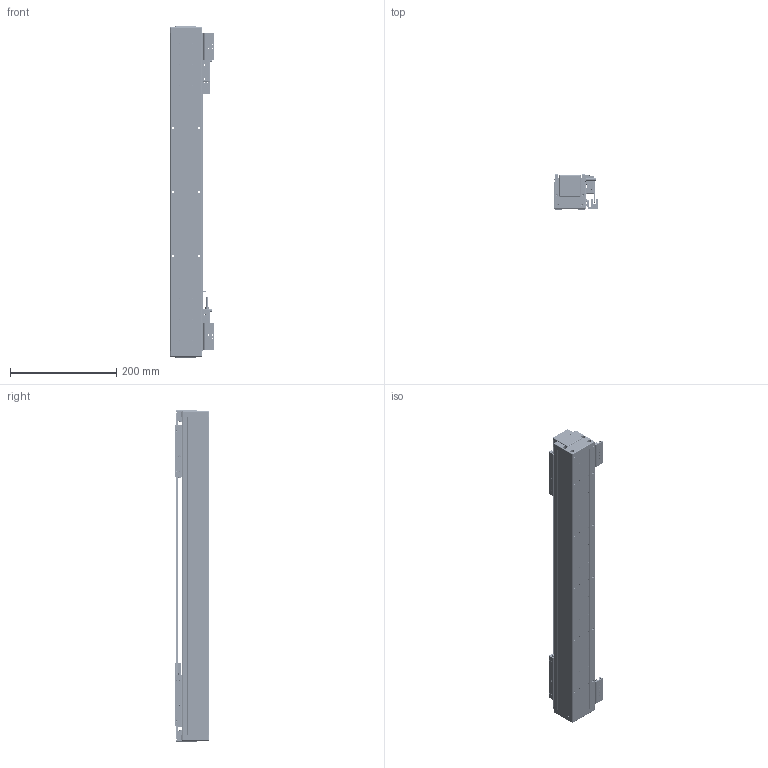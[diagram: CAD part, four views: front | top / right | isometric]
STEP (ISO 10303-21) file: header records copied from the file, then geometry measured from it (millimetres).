
FILE_DESCRIPTION (( 'STEP AP203' ), '1' );
FILE_NAME ('DA-A60-2-B1-T360-C010-0.2-HG-29577 直线电机.STEP', '2024-11-14T09:55:55', ( '微软用户' ), ( '微软中国' ), 'SwSTEP 2.0', 'SolidWorks 2019', '' );
FILE_SCHEMA (( 'CONFIG_CONTROL_DESIGN' ));
Length unit declared in the file: millimetre
Products named in the file (39): 3.17mm幗紩; 隙霜ん; DA60-YT-B1-HT-B-00 珨极趙賑雄怢啣; DA60-DMT-DTJ-ZJ-00 笢潔黍杅芛盓殤; 詩紩郪璃; AKM01-W030-TRL240-t460; DA60-DMT-DTJ-00 黍杅芛盓殤; XD-U-02-460; DA60-HC-XJ-00 笢潔遣喳砎蝶; pm-y65; DA60-XJ-00 砎蝶結輸; DA60-GT-T460-00 菁釱詩寢; AU-A60-L1500-30-30-00 菁釱-T460_600; 22473-0000-003-00 換覜ん嘐隅啣; 傷裔郪璃; 22473-0000-002-00 嫖萇覜茼え; 曾肣蚐戚 6x6mm; AU-A60-L1500-30-30 菁釱絳寢-T460; DA60-HK-DP-00 結え; DA60-B1-HT-B-02 賑雄怢啣; DMT-010 1米m 0.3M; DA60-0460-002-00 裔啣; DA-A60-2-B1-T360-C010-0.2-HG-29577 眻盄萇儂; DA60-DG-H-00 端板(反馈）; 萇儂堤盄; DA60-B1-GT-00 賑輸詩寢; LAKM01-W030-C1-TP-0.2 眻盄萇儂雄赽; DA60-HLQ-A-01 回流器A; DA60-LBKM01-W030-C1-TP-0.2-ZP 直线电机动子_单动子; DA60-HLQ-B-01 回流器B; DA60-GYP-ZJ-01 笢潔嫖萇覜茼え; O倰躇猾_00
Assembly tree (299 placements, depth 4):
  DA-A60-2-B1-T360-C010-0.2-HG-29577 眻盄萇儂
    AU-A60-L1500-30-30 菁釱絳寢-T460
      AU-A60-L1500-30-30-00 菁釱-T460_600
      DA60-GT-T460-00 菁釱詩寢  x2
    DA60-LBKM01-W030-C1-TP-0.2-ZP 直线电机动子_单动子
      DA60-YT-B1-HT-B-00 珨极趙賑雄怢啣
        DA60-B1-HT-B-02 賑雄怢啣
        DA60-B1-GT-00 賑輸詩寢  x2
      隙霜ん
        DA60-HLQ-A-01 回流器A
        DA60-HLQ-B-01 回流器B
      曾肣蚐戚 6x6mm
      DA60-HK-DP-00 結え  x2
      LAKM01-W030-C1-TP-0.2 眻盄萇儂雄赽  x2
      O倰躇猾_00
      詩紩郪璃
        3.17mm幗紩  x59
      詩紩郪璃
        3.17mm幗紩  x59
    傷裔郪璃
      DA60-DG-H-00 端板(反馈）
      DA60-XJ-00 砎蝶結輸
    傷裔郪璃
      DA60-DG-H-00 端板(反馈）
      DA60-XJ-00 砎蝶結輸
    DA60-0460-002-00 裔啣
    DA60-DMT-DTJ-00 黍杅芛盓殤
    DMT-010 1米m 0.3M  x2
    XD-U-02-460
    22473-0000-002-00 嫖萇覜茼え  x2
    AKM01-W030-TRL240-t460
    22473-0000-003-00 換覜ん嘐隅啣  x2
    pm-y65  x5
    萇儂堤盄  x2
    DA60-LBKM01-W030-C1-TP-0.2-ZP 直线电机动子_单动子
      DA60-YT-B1-HT-B-00 珨极趙賑雄怢啣
        DA60-B1-HT-B-02 賑雄怢啣
        DA60-B1-GT-00 賑輸詩寢  x2
      隙霜ん
        DA60-HLQ-A-01 回流器A
        DA60-HLQ-B-01 回流器B
      曾肣蚐戚 6x6mm
      DA60-HK-DP-00 結え  x2
      LAKM01-W030-C1-TP-0.2 眻盄萇儂雄赽  x2
      O倰躇猾_00
      詩紩郪璃
        3.17mm幗紩  x59
      詩紩郪璃
        3.17mm幗紩  x59
    DA60-DMT-DTJ-ZJ-00 笢潔黍杅芛盓殤
    DA60-GYP-ZJ-01 笢潔嫖萇覜茼え
    DA60-HC-XJ-00 笢潔遣喳砎蝶  x2
Bounding box: 83.25 x 65 x 625 mm (x, y, z)
Volume: 1686975.5 mm3; surface area: 622657.1 mm2
Topology: 296 solids, 296 shells, 5853 faces, 15527 edges, 9784 vertices
Faces by surface type: plane 2308, cylinder 1873, bspline 636, cone 482, sphere 474, torus 80
Entity records: 110288 total; most frequent: CARTESIAN_POINT 29094, ORIENTED_EDGE 14756, DIRECTION 14515, EDGE_CURVE 7378, AXIS2_PLACEMENT_3D 5190, VERTEX_POINT 4651, VECTOR 4135, LINE 4135
